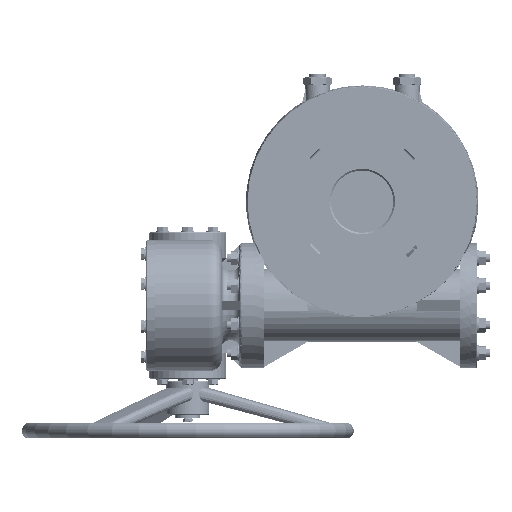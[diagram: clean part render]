
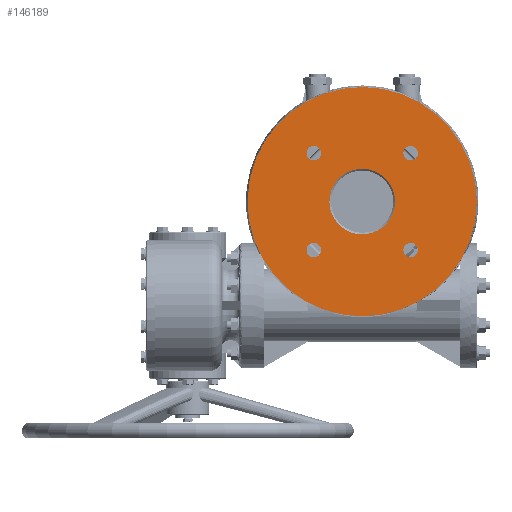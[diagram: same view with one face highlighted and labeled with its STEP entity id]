
A CAD part, front view. The second image highlights one B-rep face of the part: STEP entity #146189.
In plain terms, the highlighted planar face has unit normal (0, -1, 0).
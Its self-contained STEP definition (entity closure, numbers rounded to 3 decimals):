
#1011 = EDGE_CURVE ( 'NONE', #66615, #57286, #8004, .T. ) ;
#1345 = VERTEX_POINT ( 'NONE', #73338 ) ;
#4211 = VERTEX_POINT ( 'NONE', #196203 ) ;
#5093 = DIRECTION ( 'NONE',  ( 0., 0., -1. ) ) ;
#6553 = EDGE_CURVE ( 'NONE', #63091, #223019, #170108, .T. ) ;
#6779 = DIRECTION ( 'NONE',  ( 0., 1., 0. ) ) ;
#8004 = CIRCLE ( 'NONE', #133466, 8.75 ) ;
#11189 = DIRECTION ( 'NONE',  ( 0., 0., -1. ) ) ;
#12650 = CARTESIAN_POINT ( 'NONE',  ( -58.336, 0., 58.336 ) ) ;
#15478 = AXIS2_PLACEMENT_3D ( 'NONE', #200881, #202382, #28606 ) ;
#17900 = DIRECTION ( 'NONE',  ( 0., 0., -1. ) ) ;
#18944 = FACE_OUTER_BOUND ( 'NONE', #211507, .T. ) ;
#19042 = DIRECTION ( 'NONE',  ( 0., 0., -1. ) ) ;
#24356 = CARTESIAN_POINT ( 'NONE',  ( -58.336, 0., -58.336 ) ) ;
#25201 = CARTESIAN_POINT ( 'NONE',  ( 0., 0., -138. ) ) ;
#28050 = DIRECTION ( 'NONE',  ( 0., 0., -1. ) ) ;
#28606 = DIRECTION ( 'NONE',  ( 0., 0., -1. ) ) ;
#29431 = CARTESIAN_POINT ( 'NONE',  ( 37.5, 0., 0. ) ) ;
#33152 = CIRCLE ( 'NONE', #83235, 8.75 ) ;
#33509 = EDGE_CURVE ( 'NONE', #77262, #140337, #150648, .T. ) ;
#34631 = AXIS2_PLACEMENT_3D ( 'NONE', #36454, #123046, #19042 ) ;
#36454 = CARTESIAN_POINT ( 'NONE',  ( -58.336, 0., -58.336 ) ) ;
#44160 = FACE_BOUND ( 'NONE', #122454, .T. ) ;
#53015 = ORIENTED_EDGE ( 'NONE', *, *, #1011, .F. ) ;
#56203 = VERTEX_POINT ( 'NONE', #104789 ) ;
#56232 = CARTESIAN_POINT ( 'NONE',  ( 0., 0., 0. ) ) ;
#57286 = VERTEX_POINT ( 'NONE', #115182 ) ;
#60704 = DIRECTION ( 'NONE',  ( 0., -1., 0. ) ) ;
#63091 = VERTEX_POINT ( 'NONE', #162924 ) ;
#65027 = FACE_BOUND ( 'NONE', #93984, .T. ) ;
#66615 = VERTEX_POINT ( 'NONE', #88504 ) ;
#69123 = EDGE_CURVE ( 'NONE', #140337, #77262, #33152, .T. ) ;
#69405 = CARTESIAN_POINT ( 'NONE',  ( -58.336, 0., 58.336 ) ) ;
#70157 = CARTESIAN_POINT ( 'NONE',  ( 58.336, 0., -58.336 ) ) ;
#73338 = CARTESIAN_POINT ( 'NONE',  ( 0., 0., -39.5 ) ) ;
#77262 = VERTEX_POINT ( 'NONE', #110476 ) ;
#78129 = DIRECTION ( 'NONE',  ( 0., 0., -1. ) ) ;
#79227 = DIRECTION ( 'NONE',  ( 0., 0., -1. ) ) ;
#80859 = EDGE_CURVE ( 'NONE', #99166, #56203, #168091, .T. ) ;
#83021 = AXIS2_PLACEMENT_3D ( 'NONE', #70157, #209146, #105151 ) ;
#83235 = AXIS2_PLACEMENT_3D ( 'NONE', #12650, #152333, #115897 ) ;
#88504 = CARTESIAN_POINT ( 'NONE',  ( 58.336, 0., 49.586 ) ) ;
#90529 = ORIENTED_EDGE ( 'NONE', *, *, #103459, .F. ) ;
#93984 = EDGE_LOOP ( 'NONE', ( #114190, #159594 ) ) ;
#94861 = ORIENTED_EDGE ( 'NONE', *, *, #172759, .F. ) ;
#95457 = PLANE ( 'NONE',  #138862 ) ;
#96959 = DIRECTION ( 'NONE',  ( 0., -1., 0. ) ) ;
#99166 = VERTEX_POINT ( 'NONE', #25201 ) ;
#100110 = ORIENTED_EDGE ( 'NONE', *, *, #126677, .F. ) ;
#100850 = CIRCLE ( 'NONE', #15478, 39.5 ) ;
#100966 = EDGE_CURVE ( 'NONE', #1345, #199466, #100850, .T. ) ;
#103459 = EDGE_CURVE ( 'NONE', #223019, #63091, #152346, .T. ) ;
#103477 = ORIENTED_EDGE ( 'NONE', *, *, #69123, .F. ) ;
#104789 = CARTESIAN_POINT ( 'NONE',  ( 0., 0., 138. ) ) ;
#105151 = DIRECTION ( 'NONE',  ( 0., 0., -1. ) ) ;
#105822 = FACE_BOUND ( 'NONE', #175172, .T. ) ;
#108128 = ORIENTED_EDGE ( 'NONE', *, *, #33509, .F. ) ;
#110476 = CARTESIAN_POINT ( 'NONE',  ( -58.336, 0., 67.086 ) ) ;
#113078 = EDGE_LOOP ( 'NONE', ( #90529, #137900 ) ) ;
#114190 = ORIENTED_EDGE ( 'NONE', *, *, #100966, .T. ) ;
#114196 = DIRECTION ( 'NONE',  ( 0., -1., 0. ) ) ;
#115182 = CARTESIAN_POINT ( 'NONE',  ( 58.336, 0., 67.086 ) ) ;
#115897 = DIRECTION ( 'NONE',  ( 0., 0., -1. ) ) ;
#118996 = CARTESIAN_POINT ( 'NONE',  ( 58.336, 0., -58.336 ) ) ;
#122346 = EDGE_CURVE ( 'NONE', #199466, #1345, #134336, .T. ) ;
#122454 = EDGE_LOOP ( 'NONE', ( #53015, #100110 ) ) ;
#123046 = DIRECTION ( 'NONE',  ( 0., -1., 0. ) ) ;
#124507 = AXIS2_PLACEMENT_3D ( 'NONE', #132140, #60704, #182222 ) ;
#124628 = ORIENTED_EDGE ( 'NONE', *, *, #164063, .F. ) ;
#126041 = CARTESIAN_POINT ( 'NONE',  ( 0., 0., 0. ) ) ;
#126677 = EDGE_CURVE ( 'NONE', #57286, #66615, #141919, .T. ) ;
#127831 = AXIS2_PLACEMENT_3D ( 'NONE', #69405, #208379, #17900 ) ;
#132140 = CARTESIAN_POINT ( 'NONE',  ( 58.336, 0., 58.336 ) ) ;
#132597 = ORIENTED_EDGE ( 'NONE', *, *, #80859, .T. ) ;
#133466 = AXIS2_PLACEMENT_3D ( 'NONE', #144782, #180436, #5093 ) ;
#134336 = CIRCLE ( 'NONE', #220269, 39.5 ) ;
#137823 = AXIS2_PLACEMENT_3D ( 'NONE', #56232, #176267, #212644 ) ;
#137900 = ORIENTED_EDGE ( 'NONE', *, *, #6553, .F. ) ;
#138862 = AXIS2_PLACEMENT_3D ( 'NONE', #29431, #96959, #11189 ) ;
#140337 = VERTEX_POINT ( 'NONE', #216127 ) ;
#141919 = CIRCLE ( 'NONE', #124507, 8.75 ) ;
#142170 = AXIS2_PLACEMENT_3D ( 'NONE', #24356, #198152, #78129 ) ;
#144782 = CARTESIAN_POINT ( 'NONE',  ( 58.336, 0., 58.336 ) ) ;
#145692 = EDGE_LOOP ( 'NONE', ( #103477, #108128 ) ) ;
#146189 = ADVANCED_FACE ( 'NONE', ( #65027, #152051, #154868, #44160, #105822, #18944 ), #95457, .T. ) ;
#149723 = ORIENTED_EDGE ( 'NONE', *, *, #189745, .T. ) ;
#150648 = CIRCLE ( 'NONE', #127831, 8.75 ) ;
#152051 = FACE_BOUND ( 'NONE', #113078, .T. ) ;
#152333 = DIRECTION ( 'NONE',  ( 0., -1., 0. ) ) ;
#152346 = CIRCLE ( 'NONE', #142170, 8.75 ) ;
#154868 = FACE_BOUND ( 'NONE', #145692, .T. ) ;
#159594 = ORIENTED_EDGE ( 'NONE', *, *, #122346, .T. ) ;
#160996 = CIRCLE ( 'NONE', #216412, 8.75 ) ;
#162924 = CARTESIAN_POINT ( 'NONE',  ( -58.336, 0., -49.586 ) ) ;
#164063 = EDGE_CURVE ( 'NONE', #4211, #225281, #160996, .T. ) ;
#168091 = CIRCLE ( 'NONE', #137823, 138. ) ;
#170108 = CIRCLE ( 'NONE', #34631, 8.75 ) ;
#171367 = DIRECTION ( 'NONE',  ( 0., 0., -1. ) ) ;
#171707 = CIRCLE ( 'NONE', #194395, 138. ) ;
#172759 = EDGE_CURVE ( 'NONE', #225281, #4211, #179303, .T. ) ;
#173621 = DIRECTION ( 'NONE',  ( 0., -1., 0. ) ) ;
#175172 = EDGE_LOOP ( 'NONE', ( #94861, #124628 ) ) ;
#176014 = CARTESIAN_POINT ( 'NONE',  ( 0., 0., 39.5 ) ) ;
#176267 = DIRECTION ( 'NONE',  ( 0., -1., 0. ) ) ;
#179303 = CIRCLE ( 'NONE', #83021, 8.75 ) ;
#180436 = DIRECTION ( 'NONE',  ( 0., -1., 0. ) ) ;
#182222 = DIRECTION ( 'NONE',  ( 0., 0., -1. ) ) ;
#187931 = CARTESIAN_POINT ( 'NONE',  ( 58.336, 0., -67.086 ) ) ;
#189745 = EDGE_CURVE ( 'NONE', #56203, #99166, #171707, .T. ) ;
#192345 = CARTESIAN_POINT ( 'NONE',  ( -58.336, 0., -67.086 ) ) ;
#194395 = AXIS2_PLACEMENT_3D ( 'NONE', #202223, #114196, #79227 ) ;
#196203 = CARTESIAN_POINT ( 'NONE',  ( 58.336, 0., -49.586 ) ) ;
#198152 = DIRECTION ( 'NONE',  ( 0., -1., 0. ) ) ;
#199466 = VERTEX_POINT ( 'NONE', #176014 ) ;
#200881 = CARTESIAN_POINT ( 'NONE',  ( 0., 0., 0. ) ) ;
#202223 = CARTESIAN_POINT ( 'NONE',  ( 0., 0., 0. ) ) ;
#202382 = DIRECTION ( 'NONE',  ( 0., 1., 0. ) ) ;
#208379 = DIRECTION ( 'NONE',  ( 0., -1., 0. ) ) ;
#209146 = DIRECTION ( 'NONE',  ( 0., -1., 0. ) ) ;
#211507 = EDGE_LOOP ( 'NONE', ( #132597, #149723 ) ) ;
#212644 = DIRECTION ( 'NONE',  ( 0., 0., -1. ) ) ;
#216127 = CARTESIAN_POINT ( 'NONE',  ( -58.336, 0., 49.586 ) ) ;
#216412 = AXIS2_PLACEMENT_3D ( 'NONE', #118996, #173621, #171367 ) ;
#220269 = AXIS2_PLACEMENT_3D ( 'NONE', #126041, #6779, #28050 ) ;
#223019 = VERTEX_POINT ( 'NONE', #192345 ) ;
#225281 = VERTEX_POINT ( 'NONE', #187931 ) ;
